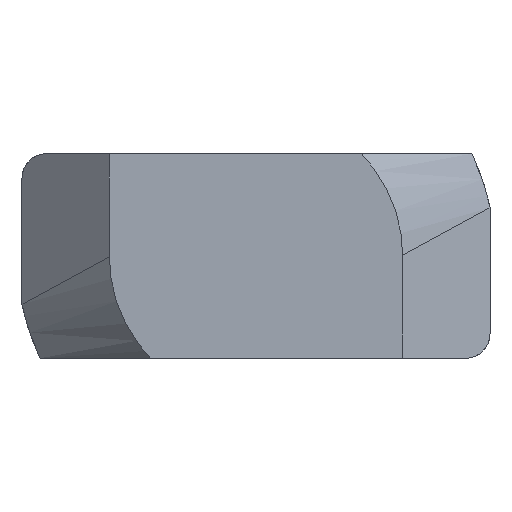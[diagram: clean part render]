
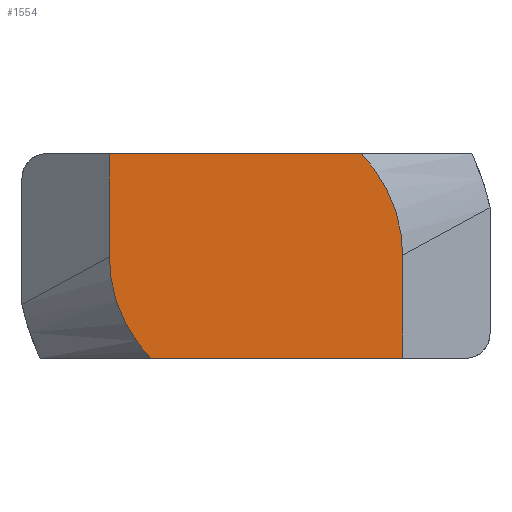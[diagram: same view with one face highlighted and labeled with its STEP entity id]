
A CAD part, front view. The second image highlights one B-rep face of the part: STEP entity #1554.
In plain terms, the highlighted planar face has unit normal (0, -1, 0).
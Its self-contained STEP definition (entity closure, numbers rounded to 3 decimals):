
#109=PLANE('',#1723);
#189=FACE_OUTER_BOUND('',#271,.T.);
#271=EDGE_LOOP('',(#1429,#1430,#1431,#1432,#1433,#1434));
#297=B_SPLINE_CURVE_WITH_KNOTS('',3,(#2842,#2843,#2844,#2845,#2846,#2847),
 .UNSPECIFIED.,.F.,.F.,(4,2,4),(-0.176,-0.09,
-0.014),.UNSPECIFIED.);
#298=B_SPLINE_CURVE_WITH_KNOTS('',3,(#2878,#2879,#2880,#2881,#2882,#2883),
 .UNSPECIFIED.,.F.,.F.,(4,2,4),(-0.176,-0.09,
-0.014),.UNSPECIFIED.);
#360=LINE('',#2276,#494);
#377=LINE('',#2340,#511);
#400=LINE('',#2420,#534);
#420=LINE('',#2489,#554);
#494=VECTOR('',#1794,1000.);
#511=VECTOR('',#1829,1000.);
#534=VECTOR('',#1882,10.);
#554=VECTOR('',#1934,10.);
#661=VERTEX_POINT('',#2273);
#662=VERTEX_POINT('',#2275);
#683=VERTEX_POINT('',#2337);
#684=VERTEX_POINT('',#2339);
#710=VERTEX_POINT('',#2418);
#733=VERTEX_POINT('',#2487);
#812=EDGE_CURVE('',#661,#662,#360,.T.);
#837=EDGE_CURVE('',#683,#684,#377,.T.);
#871=EDGE_CURVE('',#710,#683,#400,.T.);
#901=EDGE_CURVE('',#733,#661,#420,.T.);
#997=EDGE_CURVE('',#662,#710,#297,.F.);
#998=EDGE_CURVE('',#684,#733,#298,.F.);
#1429=ORIENTED_EDGE('',*,*,#871,.F.);
#1430=ORIENTED_EDGE('',*,*,#997,.F.);
#1431=ORIENTED_EDGE('',*,*,#812,.F.);
#1432=ORIENTED_EDGE('',*,*,#901,.F.);
#1433=ORIENTED_EDGE('',*,*,#998,.F.);
#1434=ORIENTED_EDGE('',*,*,#837,.F.);
#1554=ADVANCED_FACE('',(#189),#109,.F.);
#1723=AXIS2_PLACEMENT_3D('',#2884,#2153,#2154);
#1794=DIRECTION('',(1.,0.,0.));
#1829=DIRECTION('',(-1.,0.,0.));
#1882=DIRECTION('',(0.,0.,-1.));
#1934=DIRECTION('',(0.,0.,1.));
#2153=DIRECTION('center_axis',(0.,1.,0.));
#2154=DIRECTION('ref_axis',(0.,0.,1.));
#2273=CARTESIAN_POINT('',(-5.956,-4.65,4.15));
#2275=CARTESIAN_POINT('',(4.265,-4.65,4.15));
#2276=CARTESIAN_POINT('',(-5.9,-4.65,4.15));
#2337=CARTESIAN_POINT('',(5.956,-4.65,-4.15));
#2339=CARTESIAN_POINT('',(-4.265,-4.65,-4.15));
#2340=CARTESIAN_POINT('',(5.9,-4.65,-4.15));
#2418=CARTESIAN_POINT('',(5.956,-4.65,0.031));
#2420=CARTESIAN_POINT('',(5.956,-4.65,0.));
#2487=CARTESIAN_POINT('',(-5.956,-4.65,-0.031));
#2489=CARTESIAN_POINT('',(-5.956,-4.65,0.));
#2842=CARTESIAN_POINT('Ctrl Pts',(5.956,-4.65,0.031));
#2843=CARTESIAN_POINT('Ctrl Pts',(5.956,-4.65,0.374));
#2844=CARTESIAN_POINT('Ctrl Pts',(5.932,-4.65,1.268));
#2845=CARTESIAN_POINT('Ctrl Pts',(5.09,-4.65,3.251));
#2846=CARTESIAN_POINT('Ctrl Pts',(4.554,-4.65,3.856));
#2847=CARTESIAN_POINT('Ctrl Pts',(4.265,-4.65,4.15));
#2878=CARTESIAN_POINT('Ctrl Pts',(-5.956,-4.65,-0.031));
#2879=CARTESIAN_POINT('Ctrl Pts',(-5.956,-4.65,-0.374));
#2880=CARTESIAN_POINT('Ctrl Pts',(-5.932,-4.65,-1.268));
#2881=CARTESIAN_POINT('Ctrl Pts',(-5.09,-4.65,-3.251));
#2882=CARTESIAN_POINT('Ctrl Pts',(-4.554,-4.65,-3.856));
#2883=CARTESIAN_POINT('Ctrl Pts',(-4.265,-4.65,-4.15));
#2884=CARTESIAN_POINT('Origin',(0.,-4.65,0.));
